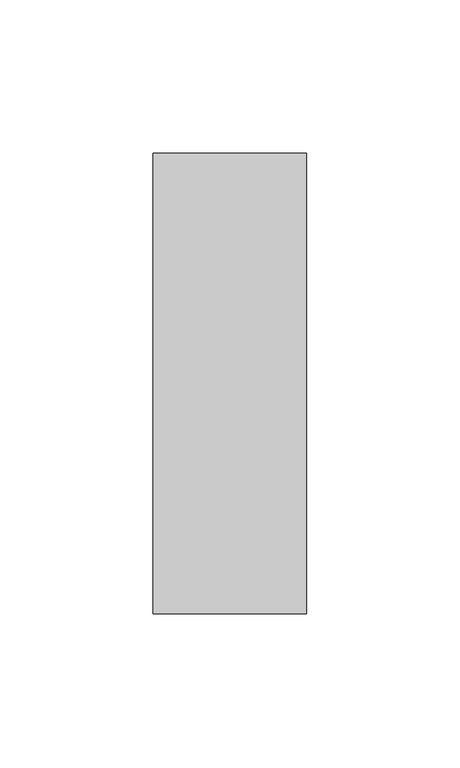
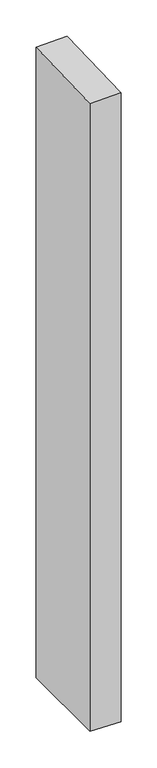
"""IFC4 building model written with IfcOpenShell, lengths in millimetres: member geometry, Прямоугольный импост : 50 x 150 мм."""

from ifc_helpers import new_model, si_unit, origin, place, context, project, spatial, faceted_brep, source, transform, mapped, element, save


def member_ce0d380f(model_context):
    return source(origin(), model_context, "Body", "Brep", [
        faceted_brep([(-25.0, 75.0, 1.8499313), (25.0, 75.0, 2.9720277), (25.0, 75.0, -1066.3444502), (-25.0, 75.0, -1065.3043245), (-25.0, -75.0, -2.9720277), (-25.0, -75.0, -1065.176771), (25.0, -75.0, -1.8499313), (25.0, -75.0, -1066.2168966)], [[[0, 1, 2, 3]], [[4, 0, 3, 5]], [[6, 4, 5, 7]], [[1, 6, 7, 2]], [[1, 0, 4, 6]], [[2, 7, 5, 3]]]),
    ])


if __name__ == "__main__":
    model = new_model("IFC4")
    model_context = context("Model", 3, world=origin())
    ifc_project = project(units=[si_unit("LENGTHUNIT", "METRE", prefix="MILLI")], contexts=[model_context])
    site = spatial("IfcSite", under=ifc_project)
    building = spatial("IfcBuilding", under=site)
    placement = place(None, origin())
    member_shape = member_ce0d380f(model_context)
    element("IfcMember", 1, ObjectType="Прямоугольный импост : 50 x 150 мм", at=placement, inside=building, context=model_context, shape_type="MappedRepresentation", body=[
        mapped(member_shape, transform((0.0, 0.0, 0.0), x_axis=(1.0, 0.0, 0.0), y_axis=(0.0, 1.0, 0.0), z_axis=(0.0, 0.0, 1.0))),
    ])
    save(model, "model.ifc")
